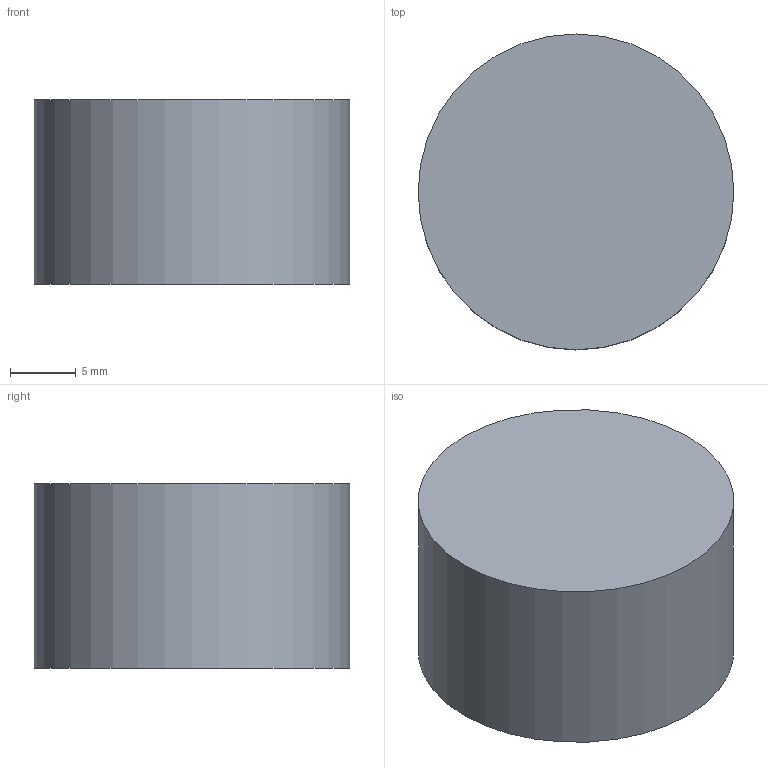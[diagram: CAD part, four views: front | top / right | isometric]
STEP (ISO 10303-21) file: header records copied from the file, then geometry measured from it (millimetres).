
FILE_DESCRIPTION(/* description */ ('STEP AP242 Edition 2','CAx-IF Rec.Pracs.---Representation and Presentation of Product Manufacturing Information (PMI)---4.0---2014-10-13','CAx-IF Rec.Pracs.---3D Tessellated Geometry---0.4---2014-09-14','2;1','CAx-IF Rec.Pracs.---User Defined Attributes---1.5---2016-08-15'),/* implementation_level */ '2;1');
FILE_NAME(/* name */ 'Part Studio 1 - Knob 24mm',/* time_stamp */ '2026-11-26T14:54:19Z',/* author */ (''),/* organization */ (''),/* preprocessor_version */ 'ST-DEVELOPER v20',/* originating_system */ 'ONSHAPE BY PTC INC, 1.224',/* authorisation */ ' ');
FILE_SCHEMA (('AP242_MANAGED_MODEL_BASED_3D_ENGINEERING_MIM_LF { 1 0 10303 442 3 1 4 }'));
Length unit declared in the file: metre
Products named in the file (1): Knob 24mm
Bounding box: 24 x 24 x 14 mm (x, y, z)
Volume: 5848.5 mm3; surface area: 2235.6 mm2
Topology: 1 solids, 1 shells, 8 faces, 12 edges, 8 vertices
Faces by surface type: plane 5, cylinder 3
Full cylindrical faces by diameter (mm): 8.6 x1, 24 x1
Entity records: 194 total; most frequent: DIRECTION 34, CARTESIAN_POINT 27, ORIENTED_EDGE 20, AXIS2_PLACEMENT_3D 15, EDGE_LOOP 12, FACE_BOUND 12, EDGE_CURVE 10, VERTEX_POINT 8
